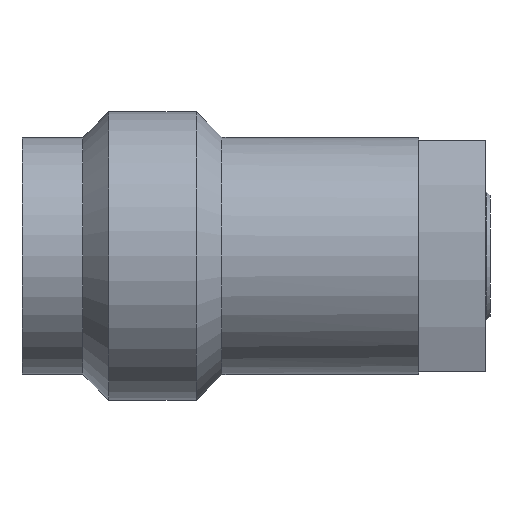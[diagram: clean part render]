
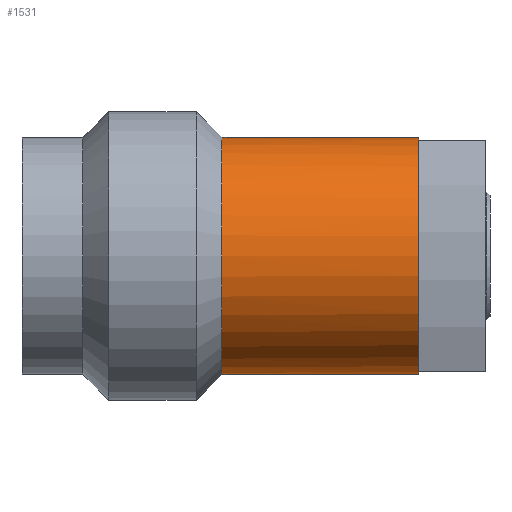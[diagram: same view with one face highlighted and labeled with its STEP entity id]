
A CAD part, front view. The second image highlights one B-rep face of the part: STEP entity #1531.
In plain terms, the highlighted cylindrical face has radius 2.921 mm (diameter 5.842 mm), a partial arc.
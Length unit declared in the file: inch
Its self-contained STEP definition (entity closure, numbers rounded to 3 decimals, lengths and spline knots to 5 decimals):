
#152 = VERTEX_POINT ( 'NONE', #1097 ) ;
#247 = VECTOR ( 'NONE', #3006, 39.37008 ) ;
#317 = LINE ( 'NONE', #1587, #247 ) ;
#323 = ORIENTED_EDGE ( 'NONE', *, *, #2417, .F. ) ;
#342 = CARTESIAN_POINT ( 'NONE',  ( 0.194, 0., 0. ) ) ;
#411 = AXIS2_PLACEMENT_3D ( 'NONE', #1047, #2725, #1286 ) ;
#476 = LINE ( 'NONE', #2748, #2316 ) ;
#573 = CARTESIAN_POINT ( 'NONE',  ( 0.194, 0., -0.115 ) ) ;
#602 = DIRECTION ( 'NONE',  ( -1., 0., 0. ) ) ;
#607 = DIRECTION ( 'NONE',  ( 0., 0., 1. ) ) ;
#660 = VERTEX_POINT ( 'NONE', #1618 ) ;
#749 = CYLINDRICAL_SURFACE ( 'NONE', #1124, 0.115 ) ;
#750 = EDGE_CURVE ( 'NONE', #152, #2616, #1309, .T. ) ;
#784 = AXIS2_PLACEMENT_3D ( 'NONE', #342, #2746, #2977 ) ;
#860 = ORIENTED_EDGE ( 'NONE', *, *, #2684, .T. ) ;
#920 = EDGE_CURVE ( 'NONE', #2105, #660, #2217, .T. ) ;
#999 = CARTESIAN_POINT ( 'NONE',  ( 0.385, 0., 0. ) ) ;
#1024 = EDGE_LOOP ( 'NONE', ( #323, #2427, #2522, #860, #1380, #2049 ) ) ;
#1047 = CARTESIAN_POINT ( 'NONE',  ( 0.385, 0., 0. ) ) ;
#1071 = CIRCLE ( 'NONE', #411, 0.115 ) ;
#1097 = CARTESIAN_POINT ( 'NONE',  ( 0.385, 0., -0.115 ) ) ;
#1124 = AXIS2_PLACEMENT_3D ( 'NONE', #2770, #1818, #607 ) ;
#1246 = DIRECTION ( 'NONE',  ( 0., 0., 1. ) ) ;
#1286 = DIRECTION ( 'NONE',  ( 0., 0., 1. ) ) ;
#1309 = CIRCLE ( 'NONE', #1495, 0.115 ) ;
#1312 = DIRECTION ( 'NONE',  ( -1., 0., 0. ) ) ;
#1380 = ORIENTED_EDGE ( 'NONE', *, *, #2478, .T. ) ;
#1470 = FACE_OUTER_BOUND ( 'NONE', #1024, .T. ) ;
#1495 = AXIS2_PLACEMENT_3D ( 'NONE', #2296, #602, #2063 ) ;
#1502 = CIRCLE ( 'NONE', #1819, 0.115 ) ;
#1531 = ADVANCED_FACE ( 'NONE', ( #1470 ), #749, .T. ) ;
#1587 = CARTESIAN_POINT ( 'NONE',  ( 0., 0., 0.115 ) ) ;
#1618 = CARTESIAN_POINT ( 'NONE',  ( 0.194, 0., 0.115 ) ) ;
#1630 = CARTESIAN_POINT ( 'NONE',  ( 0.385, -0.02385, -0.1125 ) ) ;
#1818 = DIRECTION ( 'NONE',  ( -1., 0., 0. ) ) ;
#1819 = AXIS2_PLACEMENT_3D ( 'NONE', #999, #2689, #1246 ) ;
#2049 = ORIENTED_EDGE ( 'NONE', *, *, #920, .F. ) ;
#2063 = DIRECTION ( 'NONE',  ( 0., 0., 1. ) ) ;
#2105 = VERTEX_POINT ( 'NONE', #573 ) ;
#2140 = CARTESIAN_POINT ( 'NONE',  ( 0.385, -0.02385, 0.1125 ) ) ;
#2217 = CIRCLE ( 'NONE', #784, 0.115 ) ;
#2225 = EDGE_CURVE ( 'NONE', #2616, #3092, #1502, .T. ) ;
#2296 = CARTESIAN_POINT ( 'NONE',  ( 0.385, 0., 0. ) ) ;
#2316 = VECTOR ( 'NONE', #1312, 39.37008 ) ;
#2402 = VERTEX_POINT ( 'NONE', #2734 ) ;
#2417 = EDGE_CURVE ( 'NONE', #152, #2105, #476, .T. ) ;
#2427 = ORIENTED_EDGE ( 'NONE', *, *, #750, .T. ) ;
#2478 = EDGE_CURVE ( 'NONE', #2402, #660, #317, .T. ) ;
#2522 = ORIENTED_EDGE ( 'NONE', *, *, #2225, .T. ) ;
#2616 = VERTEX_POINT ( 'NONE', #1630 ) ;
#2684 = EDGE_CURVE ( 'NONE', #3092, #2402, #1071, .T. ) ;
#2689 = DIRECTION ( 'NONE',  ( -1., 0., 0. ) ) ;
#2725 = DIRECTION ( 'NONE',  ( -1., 0., 0. ) ) ;
#2734 = CARTESIAN_POINT ( 'NONE',  ( 0.385, 0., 0.115 ) ) ;
#2746 = DIRECTION ( 'NONE',  ( -1., 0., 0. ) ) ;
#2748 = CARTESIAN_POINT ( 'NONE',  ( 0., 0., -0.115 ) ) ;
#2770 = CARTESIAN_POINT ( 'NONE',  ( 0., 0., 0. ) ) ;
#2977 = DIRECTION ( 'NONE',  ( 0., 0., 1. ) ) ;
#3006 = DIRECTION ( 'NONE',  ( -1., 0., 0. ) ) ;
#3092 = VERTEX_POINT ( 'NONE', #2140 ) ;
